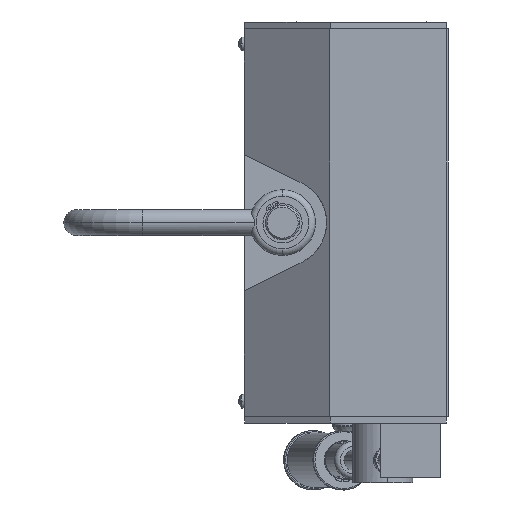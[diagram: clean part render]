
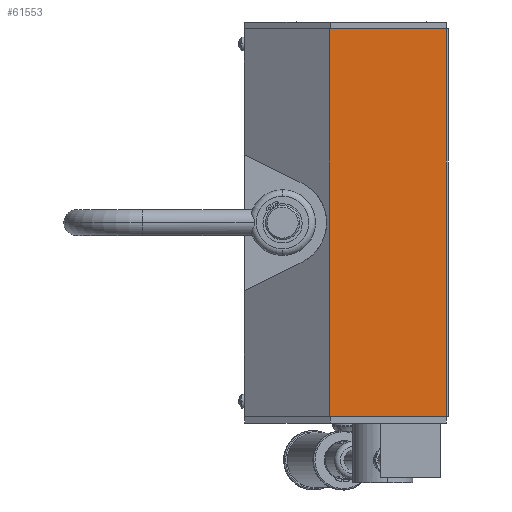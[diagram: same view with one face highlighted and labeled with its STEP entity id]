
A CAD part, left-side view. The second image highlights one B-rep face of the part: STEP entity #61553.
In plain terms, the highlighted planar face has unit normal (-1, 0, 0).
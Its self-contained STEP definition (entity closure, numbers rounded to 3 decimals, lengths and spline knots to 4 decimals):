
#299 = VECTOR ( 'NONE', #6353, 39.3701 ) ;
#6249 = VECTOR ( 'NONE', #16113, 39.3701 ) ;
#6353 = DIRECTION ( 'NONE',  ( 0., 0., -1. ) ) ;
#10617 = EDGE_CURVE ( 'NONE', #18935, #67891, #31884, .T. ) ;
#13923 = ORIENTED_EDGE ( 'NONE', *, *, #29253, .T. ) ;
#13999 = LINE ( 'NONE', #41939, #83905 ) ;
#14205 = FACE_OUTER_BOUND ( 'NONE', #22128, .T. ) ;
#16113 = DIRECTION ( 'NONE',  ( 0., 0., 1. ) ) ;
#18935 = VERTEX_POINT ( 'NONE', #65594 ) ;
#19332 = CARTESIAN_POINT ( 'NONE',  ( -2.3918, 1.2087, -4.4783 ) ) ;
#20794 = CARTESIAN_POINT ( 'NONE',  ( -2.3918, -1.4961, -4.4193 ) ) ;
#22128 = EDGE_LOOP ( 'NONE', ( #59229, #13923, #32033, #29660 ) ) ;
#22440 = DIRECTION ( 'NONE',  ( 0., 0., -1. ) ) ;
#29253 = EDGE_CURVE ( 'NONE', #79280, #67891, #71136, .T. ) ;
#29660 = ORIENTED_EDGE ( 'NONE', *, *, #74004, .T. ) ;
#31884 = LINE ( 'NONE', #20794, #71196 ) ;
#32033 = ORIENTED_EDGE ( 'NONE', *, *, #10617, .F. ) ;
#34397 = DIRECTION ( 'NONE',  ( 0., 1., 0. ) ) ;
#38055 = VERTEX_POINT ( 'NONE', #57153 ) ;
#41939 = CARTESIAN_POINT ( 'NONE',  ( -2.3918, -1.4961, 4.4193 ) ) ;
#43034 = CARTESIAN_POINT ( 'NONE',  ( -2.3918, -1.4567, -4.4783 ) ) ;
#43200 = DIRECTION ( 'NONE',  ( 1., 0., 0. ) ) ;
#48134 = AXIS2_PLACEMENT_3D ( 'NONE', #56248, #43200, #22440 ) ;
#51659 = CARTESIAN_POINT ( 'NONE',  ( -2.3918, 1.2087, 4.4193 ) ) ;
#53962 = EDGE_CURVE ( 'NONE', #38055, #79280, #13999, .T. ) ;
#56248 = CARTESIAN_POINT ( 'NONE',  ( -2.3918, -1.4961, -4.4783 ) ) ;
#57153 = CARTESIAN_POINT ( 'NONE',  ( -2.3918, -1.4567, 4.4193 ) ) ;
#59229 = ORIENTED_EDGE ( 'NONE', *, *, #53962, .T. ) ;
#61553 = ADVANCED_FACE ( 'NONE', ( #14205 ), #83762, .F. ) ;
#62807 = CARTESIAN_POINT ( 'NONE',  ( -2.3918, 1.2087, -4.4193 ) ) ;
#63397 = LINE ( 'NONE', #43034, #6249 ) ;
#65594 = CARTESIAN_POINT ( 'NONE',  ( -2.3918, -1.4567, -4.4193 ) ) ;
#66555 = DIRECTION ( 'NONE',  ( 0., 1., 0. ) ) ;
#67891 = VERTEX_POINT ( 'NONE', #62807 ) ;
#71136 = LINE ( 'NONE', #19332, #299 ) ;
#71196 = VECTOR ( 'NONE', #34397, 39.3701 ) ;
#74004 = EDGE_CURVE ( 'NONE', #18935, #38055, #63397, .T. ) ;
#79280 = VERTEX_POINT ( 'NONE', #51659 ) ;
#83762 = PLANE ( 'NONE',  #48134 ) ;
#83905 = VECTOR ( 'NONE', #66555, 39.3701 ) ;
